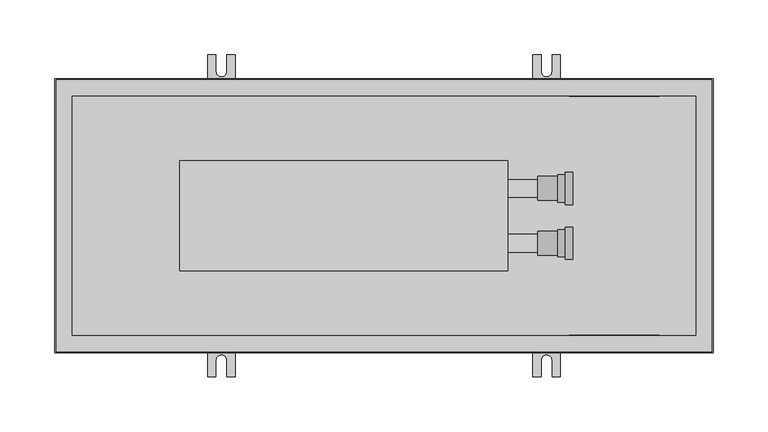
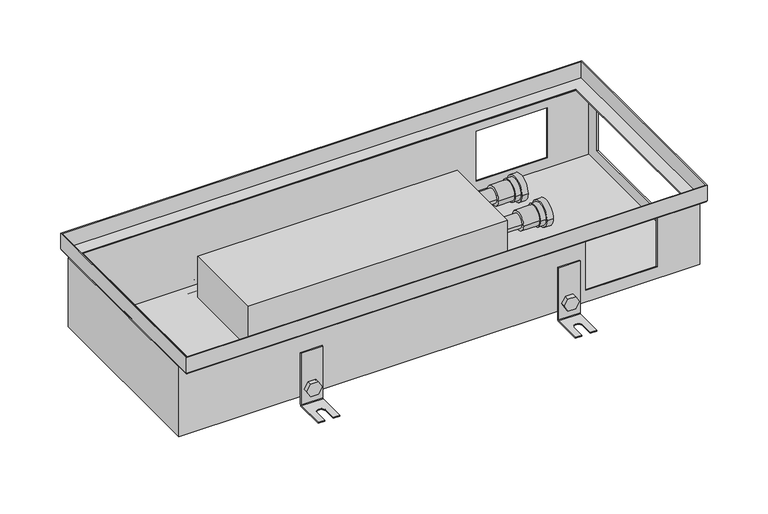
"""IFC4 building model written with IfcOpenShell, lengths in millimetres: proxy geometry, TECHNO_Конвектор встраиваемый_Usual_KVZ-250_85-105-120 : KVZ 250-105."""

from ifc_helpers import new_model, si_unit, point, frame, frame_2d, origin, place, context, project, spatial, polyline, circle_curve, ellipse_curve, trimmed, segment, composite_curve, outline, extrude, faceted_brep, source, transform, mapped, element, save
from ifc_brep_helpers import plane_surface, cylinder_surface, revolved_surface, advanced_brep


def mechanical_equipment_37fe95d5(model_context):
    return source(origin(), model_context, "Body", "SolidModel", [
        extrude(outline(composite_curve([segment(trimmed(circle_curve(frame_2d((-95.5, 448.2)), 7.5), [point((-95.5, 440.7))], [point((-95.5, 455.7))], False, "CARTESIAN"), True, "CONTINUOUS"), segment(trimmed(circle_curve(frame_2d((-95.5, 448.2)), 7.5), [point((-95.5, 455.7))], [point((-95.5, 440.7))], False, "CARTESIAN"), True, "CONTINUOUS")], self_intersect=False)), frame((0.0, 110.2, 0.0), z_axis=(0.0, 1.0, 0.0), x_axis=(0.0, 0.0, 1.0)), (0.0, 0.0, 1.0), 1.5),
        extrude(outline(polyline([(-95.5, 439.539746), (-103.0, 443.869873), (-103.0, 452.530127), (-95.5, 456.860254), (-88.0, 452.530127), (-88.0, 443.869873), (-95.5, 439.539746)])), frame((0.0, 112.9, 0.0), z_axis=(0.0, 1.0, 0.0), x_axis=(0.0, 0.0, 1.0)), (0.0, 0.0, 1.0), 5.1),
        advanced_brep(
        [(460.7, 112.9, -50.5), (460.7, 111.7, -50.5), (460.7, 111.7, -113.5), (460.7, 113.7, -115.5), (460.7, 146.7, -115.5), (460.7, 146.7, -114.3), (460.7, 113.7, -114.3), (460.7, 112.9, -113.5), (435.7, 112.9, -50.5), (435.7, 112.9, -113.5), (435.7, 113.7, -114.3), (435.7, 146.7, -114.3), (435.7, 146.7, -115.5), (435.7, 113.7, -115.5), (435.7, 111.7, -113.5), (435.7, 111.7, -50.5), (453.2, 146.7, -114.3), (453.2, 131.7, -114.3), (443.2, 131.7, -114.3), (443.2, 146.7, -114.3), (443.2, 146.7, -115.5), (453.2, 146.7, -115.5), (443.2, 131.7, -115.5), (453.2, 131.7, -115.5)],
        [
            (0, 1),
            (1, 2),
            (2, 3, circle_curve(frame((460.7, 113.7, -113.5), z_axis=(1.0, 0.0, 0.0), x_axis=(0.0, 1.0, 0.0)), 2.0)),
            (3, 4),
            (4, 5),
            (5, 6),
            (6, 7, circle_curve(frame((460.7, 113.7, -113.5), z_axis=(-1.0, 0.0, 0.0), x_axis=(0.0, 1.0, 0.0)), 0.8)),
            (7, 0),
            (8, 9),
            (9, 10, circle_curve(frame((435.7, 113.7, -113.5), z_axis=(1.0, 0.0, 0.0), x_axis=(0.0, 1.0, 0.0)), 0.8)),
            (10, 11),
            (11, 12),
            (12, 13),
            (13, 14, circle_curve(frame((435.7, 113.7, -113.5), z_axis=(-1.0, 0.0, 0.0), x_axis=(0.0, 1.0, 0.0)), 2.0)),
            (14, 15),
            (15, 8),
            (7, 9),
            (8, 0),
            (6, 10),
            (5, 16),
            (16, 17),
            (17, 18, circle_curve(frame((448.2, 131.7, -114.3), z_axis=(0.0, 0.0, -1.0), x_axis=(1.0, 0.0, 0.0)), 5.0)),
            (18, 19),
            (19, 11),
            (19, 20),
            (20, 12),
            (4, 21),
            (21, 16),
            (3, 13),
            (20, 22),
            (22, 23, circle_curve(frame((448.2, 131.7, -115.5), z_axis=(0.0, 0.0, 1.0), x_axis=(1.0, 0.0, 0.0)), 5.0)),
            (23, 21),
            (2, 14),
            (1, 15),
            (18, 22),
            (23, 17),
        ],
        [
            plane_surface(frame((460.7, 112.9, -50.5), z_axis=(1.0, 0.0, 0.0), x_axis=(0.0, 0.0, -1.0))),
            plane_surface(frame((435.7, 112.9, -50.5), z_axis=(-1.0, 0.0, 0.0), x_axis=(0.0, 0.0, 1.0))),
            plane_surface(frame((460.7, 112.9, -50.5), z_axis=(0.0, 1.0, 0.0), x_axis=(-1.0, 0.0, 0.0))),
            revolved_surface(polyline([(435.7, 114.5, -113.5), (460.7, 114.5, -113.5)]), (435.7, 113.7, -113.5), (-1.0, 0.0, 0.0)),
            plane_surface(frame((460.7, 113.7, -114.3), z_axis=(0.0, 0.0, 1.0), x_axis=(-1.0, 0.0, 0.0))),
            plane_surface(frame((460.7, 146.7, -114.3), z_axis=(0.0, 1.0, 0.0), x_axis=(-1.0, 0.0, 0.0))),
            plane_surface(frame((460.7, 146.7, -115.5), z_axis=(0.0, 0.0, -1.0), x_axis=(-1.0, 0.0, 0.0))),
            cylinder_surface(frame((435.7, 113.7, -113.5), z_axis=(1.0, 0.0, 0.0), x_axis=(0.0, 1.0, 0.0)), 2.0),
            plane_surface(frame((460.7, 111.7, -113.5), z_axis=(0.0, -1.0, 0.0), x_axis=(-1.0, 0.0, 0.0))),
            plane_surface(frame((460.7, 111.7, -50.5), z_axis=(0.0, 0.0, 1.0), x_axis=(-1.0, 0.0, 0.0))),
            plane_surface(frame((443.2, 131.7, -114.3), z_axis=(1.0, 0.0, 0.0), x_axis=(0.0, 0.0, -1.0))),
            plane_surface(frame((453.2, 146.7, -114.3), z_axis=(-1.0, 0.0, 0.0), x_axis=(0.0, 0.0, -1.0))),
            revolved_surface(polyline([(453.2, 131.7, -114.3), (453.2, 131.7, -115.5)]), (448.2, 131.7, -115.5), (0.0, 0.0, 1.0)),
        ],
        [
            (0, [[1, 2, 3, 4, 5, 6, 7, 8]]),
            (1, [[9, 10, 11, 12, 13, 14, 15, 16]]),
            (2, [[17, -9, 18, -8]]),
            (3, [[19, -10, -17, -7]]),
            (4, [[20, 21, 22, 23, 24, -11, -19, -6]]),
            (5, [[-24, 25, 26, -12]]),
            (5, [[27, 28, -20, -5]]),
            (6, [[29, -13, -26, 30, 31, 32, -27, -4]]),
            (7, [[33, -14, -29, -3]]),
            (8, [[34, -15, -33, -2]]),
            (9, [[-18, -16, -34, -1]]),
            (10, [[-30, -25, -23, 35]]),
            (11, [[-21, -28, -32, 36]]),
            (12, [[-22, -36, -31, -35]]),
        ],
    ),
        extrude(outline(composite_curve([segment(trimmed(circle_curve(frame_2d((-95.5, 448.2)), 7.5), [point((-95.5, 440.7))], [point((-95.5, 455.7))], False, "CARTESIAN"), True, "CONTINUOUS"), segment(trimmed(circle_curve(frame_2d((-95.5, 448.2)), 7.5), [point((-95.5, 455.7))], [point((-95.5, 440.7))], False, "CARTESIAN"), True, "CONTINUOUS")], self_intersect=False)), frame((0.0, -111.7, 0.0), z_axis=(0.0, 1.0, 0.0), x_axis=(0.0, 0.0, 1.0)), (0.0, 0.0, 1.0), 1.5),
        extrude(outline(polyline([(-95.5, 439.539746), (-103.0, 443.869873), (-103.0, 452.530127), (-95.5, 456.860254), (-88.0, 452.530127), (-88.0, 443.869873), (-95.5, 439.539746)])), frame((0.0, -118.0, 0.0), z_axis=(0.0, 1.0, 0.0), x_axis=(0.0, 0.0, 1.0)), (0.0, 0.0, 1.0), 5.1),
        advanced_brep(
        [(460.7, -112.9, -50.5), (460.7, -112.9, -113.5), (460.7, -113.7, -114.3), (460.7, -146.7, -114.3), (460.7, -146.7, -115.5), (460.7, -113.7, -115.5), (460.7, -111.7, -113.5), (460.7, -111.7, -50.5), (435.7, -112.9, -50.5), (435.7, -111.7, -50.5), (435.7, -111.7, -113.5), (435.7, -113.7, -115.5), (435.7, -146.7, -115.5), (435.7, -146.7, -114.3), (435.7, -113.7, -114.3), (435.7, -112.9, -113.5), (443.2, -146.7, -114.3), (443.2, -131.7, -114.3), (453.2, -131.7, -114.3), (453.2, -146.7, -114.3), (453.2, -146.7, -115.5), (443.2, -146.7, -115.5), (453.2, -131.7, -115.5), (443.2, -131.7, -115.5)],
        [
            (0, 1),
            (1, 2, circle_curve(frame((460.7, -113.7, -113.5), z_axis=(-1.0, 0.0, 0.0), x_axis=(0.0, -1.0, 0.0)), 0.8)),
            (2, 3),
            (3, 4),
            (4, 5),
            (5, 6, circle_curve(frame((460.7, -113.7, -113.5), z_axis=(1.0, 0.0, 0.0), x_axis=(0.0, -1.0, 0.0)), 2.0)),
            (6, 7),
            (7, 0),
            (8, 9),
            (9, 10),
            (10, 11, circle_curve(frame((435.7, -113.7, -113.5), z_axis=(-1.0, 0.0, 0.0), x_axis=(0.0, -1.0, 0.0)), 2.0)),
            (11, 12),
            (12, 13),
            (13, 14),
            (14, 15, circle_curve(frame((435.7, -113.7, -113.5), z_axis=(1.0, 0.0, 0.0), x_axis=(0.0, -1.0, 0.0)), 0.8)),
            (15, 8),
            (0, 8),
            (15, 1),
            (14, 2),
            (13, 16),
            (16, 17),
            (17, 18, circle_curve(frame((448.2, -131.7, -114.3), z_axis=(0.0, 0.0, -1.0), x_axis=(1.0, 0.0, 0.0)), 5.0)),
            (18, 19),
            (19, 3),
            (19, 20),
            (20, 4),
            (12, 21),
            (21, 16),
            (20, 22),
            (22, 23, circle_curve(frame((448.2, -131.7, -115.5), z_axis=(0.0, 0.0, 1.0), x_axis=(1.0, 0.0, 0.0)), 5.0)),
            (23, 21),
            (11, 5),
            (10, 6),
            (9, 7),
            (23, 17),
            (18, 22),
        ],
        [
            plane_surface(frame((460.7, -112.9, -50.5), z_axis=(1.0, 0.0, 0.0), x_axis=(0.0, 0.0, -1.0))),
            plane_surface(frame((435.7, -112.9, -50.5), z_axis=(-1.0, 0.0, 0.0), x_axis=(0.0, 0.0, 1.0))),
            plane_surface(frame((460.7, -112.9, -50.5), z_axis=(0.0, -1.0, 0.0), x_axis=(-1.0, 0.0, 0.0))),
            revolved_surface(polyline([(435.7, -114.5, -113.5), (460.7, -114.5, -113.5)]), (435.7, -113.7, -113.5), (-1.0, 0.0, 0.0)),
            plane_surface(frame((460.7, -113.7, -114.3), z_axis=(0.0, 0.0, 1.0), x_axis=(-1.0, 0.0, 0.0))),
            plane_surface(frame((460.7, -146.7, -114.3), z_axis=(0.0, -1.0, 0.0), x_axis=(-1.0, 0.0, 0.0))),
            plane_surface(frame((460.7, -146.7, -115.5), z_axis=(0.0, 0.0, -1.0), x_axis=(-1.0, 0.0, 0.0))),
            cylinder_surface(frame((435.7, -113.7, -113.5), z_axis=(1.0, 0.0, 0.0), x_axis=(0.0, -1.0, 0.0)), 2.0),
            plane_surface(frame((460.7, -111.7, -113.5), z_axis=(0.0, 1.0, 0.0), x_axis=(-1.0, 0.0, 0.0))),
            plane_surface(frame((460.7, -111.7, -50.5), z_axis=(0.0, 0.0, 1.0), x_axis=(-1.0, 0.0, 0.0))),
            plane_surface(frame((443.2, -131.7, -114.3), z_axis=(1.0, 0.0, 0.0), x_axis=(0.0, 0.0, -1.0))),
            plane_surface(frame((453.2, -146.7, -114.3), z_axis=(-1.0, 0.0, 0.0), x_axis=(0.0, 0.0, -1.0))),
            revolved_surface(polyline([(453.2, -131.7, -114.3), (453.2, -131.7, -115.5)]), (448.2, -131.7, -115.5), (0.0, 0.0, 1.0)),
        ],
        [
            (0, [[1, 2, 3, 4, 5, 6, 7, 8]]),
            (1, [[9, 10, 11, 12, 13, 14, 15, 16]]),
            (2, [[-1, 17, -16, 18]]),
            (3, [[-2, -18, -15, 19]]),
            (4, [[-3, -19, -14, 20, 21, 22, 23, 24]]),
            (5, [[-4, -24, 25, 26]]),
            (5, [[-13, 27, 28, -20]]),
            (6, [[-5, -26, 29, 30, 31, -27, -12, 32]]),
            (7, [[-6, -32, -11, 33]]),
            (8, [[-7, -33, -10, 34]]),
            (9, [[-8, -34, -9, -17]]),
            (10, [[35, -21, -28, -31]]),
            (11, [[36, -29, -25, -23]]),
            (12, [[-35, -30, -36, -22]]),
        ],
    ),
        extrude(outline(composite_curve([segment(trimmed(circle_curve(frame_2d((-95.5, 151.8)), 7.5), [point((-95.5, 144.3))], [point((-95.5, 159.3))], False, "CARTESIAN"), True, "CONTINUOUS"), segment(trimmed(circle_curve(frame_2d((-95.5, 151.8)), 7.5), [point((-95.5, 159.3))], [point((-95.5, 144.3))], False, "CARTESIAN"), True, "CONTINUOUS")], self_intersect=False)), frame((0.0, 110.2, 0.0), z_axis=(0.0, 1.0, 0.0), x_axis=(0.0, 0.0, 1.0)), (0.0, 0.0, 1.0), 1.5),
        extrude(outline(polyline([(-95.5, 143.139746), (-103.0, 147.469873), (-103.0, 156.130127), (-95.5, 160.460254), (-88.0, 156.130127), (-88.0, 147.469873), (-95.5, 143.139746)])), frame((0.0, 112.9, 0.0), z_axis=(0.0, 1.0, 0.0), x_axis=(0.0, 0.0, 1.0)), (0.0, 0.0, 1.0), 5.1),
        advanced_brep(
        [(164.3, 112.9, -50.5), (164.3, 111.7, -50.5), (164.3, 111.7, -113.5), (164.3, 113.7, -115.5), (164.3, 146.7, -115.5), (164.3, 146.7, -114.3), (164.3, 113.7, -114.3), (164.3, 112.9, -113.5), (139.3, 112.9, -50.5), (139.3, 112.9, -113.5), (139.3, 113.7, -114.3), (139.3, 146.7, -114.3), (139.3, 146.7, -115.5), (139.3, 113.7, -115.5), (139.3, 111.7, -113.5), (139.3, 111.7, -50.5), (156.8, 146.7, -114.3), (156.8, 131.7, -114.3), (146.8, 131.7, -114.3), (146.8, 146.7, -114.3), (146.8, 146.7, -115.5), (156.8, 146.7, -115.5), (146.8, 131.7, -115.5), (156.8, 131.7, -115.5)],
        [
            (0, 1),
            (1, 2),
            (2, 3, circle_curve(frame((164.3, 113.7, -113.5), z_axis=(1.0, 0.0, 0.0), x_axis=(0.0, 1.0, 0.0)), 2.0)),
            (3, 4),
            (4, 5),
            (5, 6),
            (6, 7, circle_curve(frame((164.3, 113.7, -113.5), z_axis=(-1.0, 0.0, 0.0), x_axis=(0.0, 1.0, 0.0)), 0.8)),
            (7, 0),
            (8, 9),
            (9, 10, circle_curve(frame((139.3, 113.7, -113.5), z_axis=(1.0, 0.0, 0.0), x_axis=(0.0, 1.0, 0.0)), 0.8)),
            (10, 11),
            (11, 12),
            (12, 13),
            (13, 14, circle_curve(frame((139.3, 113.7, -113.5), z_axis=(-1.0, 0.0, 0.0), x_axis=(0.0, 1.0, 0.0)), 2.0)),
            (14, 15),
            (15, 8),
            (7, 9),
            (8, 0),
            (6, 10),
            (5, 16),
            (16, 17),
            (17, 18, circle_curve(frame((151.8, 131.7, -114.3), z_axis=(0.0, 0.0, -1.0), x_axis=(1.0, 0.0, 0.0)), 5.0)),
            (18, 19),
            (19, 11),
            (19, 20),
            (20, 12),
            (4, 21),
            (21, 16),
            (3, 13),
            (20, 22),
            (22, 23, circle_curve(frame((151.8, 131.7, -115.5), z_axis=(0.0, 0.0, 1.0), x_axis=(1.0, 0.0, 0.0)), 5.0)),
            (23, 21),
            (2, 14),
            (1, 15),
            (18, 22),
            (23, 17),
        ],
        [
            plane_surface(frame((164.3, 112.9, -50.5), z_axis=(1.0, 0.0, 0.0), x_axis=(0.0, 0.0, -1.0))),
            plane_surface(frame((139.3, 112.9, -50.5), z_axis=(-1.0, 0.0, 0.0), x_axis=(0.0, 0.0, 1.0))),
            plane_surface(frame((164.3, 112.9, -50.5), z_axis=(0.0, 1.0, 0.0), x_axis=(-1.0, 0.0, 0.0))),
            revolved_surface(polyline([(139.3, 114.5, -113.5), (164.3, 114.5, -113.5)]), (139.3, 113.7, -113.5), (-1.0, 0.0, 0.0)),
            plane_surface(frame((164.3, 113.7, -114.3), z_axis=(0.0, 0.0, 1.0), x_axis=(-1.0, 0.0, 0.0))),
            plane_surface(frame((164.3, 146.7, -114.3), z_axis=(0.0, 1.0, 0.0), x_axis=(-1.0, 0.0, 0.0))),
            plane_surface(frame((164.3, 146.7, -115.5), z_axis=(0.0, 0.0, -1.0), x_axis=(-1.0, 0.0, 0.0))),
            cylinder_surface(frame((139.3, 113.7, -113.5), z_axis=(1.0, 0.0, 0.0), x_axis=(0.0, 1.0, 0.0)), 2.0),
            plane_surface(frame((164.3, 111.7, -113.5), z_axis=(0.0, -1.0, 0.0), x_axis=(-1.0, 0.0, 0.0))),
            plane_surface(frame((164.3, 111.7, -50.5), z_axis=(0.0, 0.0, 1.0), x_axis=(-1.0, 0.0, 0.0))),
            plane_surface(frame((146.8, 131.7, -114.3), z_axis=(1.0, 0.0, 0.0), x_axis=(0.0, 0.0, -1.0))),
            plane_surface(frame((156.8, 146.7, -114.3), z_axis=(-1.0, 0.0, 0.0), x_axis=(0.0, 0.0, -1.0))),
            revolved_surface(polyline([(156.8, 131.7, -114.3), (156.8, 131.7, -115.5)]), (151.8, 131.7, -115.5), (0.0, 0.0, 1.0)),
        ],
        [
            (0, [[1, 2, 3, 4, 5, 6, 7, 8]]),
            (1, [[9, 10, 11, 12, 13, 14, 15, 16]]),
            (2, [[17, -9, 18, -8]]),
            (3, [[19, -10, -17, -7]]),
            (4, [[20, 21, 22, 23, 24, -11, -19, -6]]),
            (5, [[-24, 25, 26, -12]]),
            (5, [[27, 28, -20, -5]]),
            (6, [[29, -13, -26, 30, 31, 32, -27, -4]]),
            (7, [[33, -14, -29, -3]]),
            (8, [[34, -15, -33, -2]]),
            (9, [[-18, -16, -34, -1]]),
            (10, [[-30, -25, -23, 35]]),
            (11, [[-21, -28, -32, 36]]),
            (12, [[-22, -36, -31, -35]]),
        ],
    ),
        extrude(outline(composite_curve([segment(trimmed(circle_curve(frame_2d((-95.5, 151.8)), 7.5), [point((-95.5, 144.3))], [point((-95.5, 159.3))], False, "CARTESIAN"), True, "CONTINUOUS"), segment(trimmed(circle_curve(frame_2d((-95.5, 151.8)), 7.5), [point((-95.5, 159.3))], [point((-95.5, 144.3))], False, "CARTESIAN"), True, "CONTINUOUS")], self_intersect=False)), frame((0.0, -111.7, 0.0), z_axis=(0.0, 1.0, 0.0), x_axis=(0.0, 0.0, 1.0)), (0.0, 0.0, 1.0), 1.5),
        extrude(outline(polyline([(-95.5, 143.139746), (-103.0, 147.469873), (-103.0, 156.130127), (-95.5, 160.460254), (-88.0, 156.130127), (-88.0, 147.469873), (-95.5, 143.139746)])), frame((0.0, -118.0, 0.0), z_axis=(0.0, 1.0, 0.0), x_axis=(0.0, 0.0, 1.0)), (0.0, 0.0, 1.0), 5.1),
        advanced_brep(
        [(164.3, -112.9, -50.5), (164.3, -112.9, -113.5), (164.3, -113.7, -114.3), (164.3, -146.7, -114.3), (164.3, -146.7, -115.5), (164.3, -113.7, -115.5), (164.3, -111.7, -113.5), (164.3, -111.7, -50.5), (139.3, -112.9, -50.5), (139.3, -111.7, -50.5), (139.3, -111.7, -113.5), (139.3, -113.7, -115.5), (139.3, -146.7, -115.5), (139.3, -146.7, -114.3), (139.3, -113.7, -114.3), (139.3, -112.9, -113.5), (146.8, -146.7, -114.3), (146.8, -131.7, -114.3), (156.8, -131.7, -114.3), (156.8, -146.7, -114.3), (156.8, -146.7, -115.5), (146.8, -146.7, -115.5), (156.8, -131.7, -115.5), (146.8, -131.7, -115.5)],
        [
            (0, 1),
            (1, 2, circle_curve(frame((164.3, -113.7, -113.5), z_axis=(-1.0, 0.0, 0.0), x_axis=(0.0, -1.0, 0.0)), 0.8)),
            (2, 3),
            (3, 4),
            (4, 5),
            (5, 6, circle_curve(frame((164.3, -113.7, -113.5), z_axis=(1.0, 0.0, 0.0), x_axis=(0.0, -1.0, 0.0)), 2.0)),
            (6, 7),
            (7, 0),
            (8, 9),
            (9, 10),
            (10, 11, circle_curve(frame((139.3, -113.7, -113.5), z_axis=(-1.0, 0.0, 0.0), x_axis=(0.0, -1.0, 0.0)), 2.0)),
            (11, 12),
            (12, 13),
            (13, 14),
            (14, 15, circle_curve(frame((139.3, -113.7, -113.5), z_axis=(1.0, 0.0, 0.0), x_axis=(0.0, -1.0, 0.0)), 0.8)),
            (15, 8),
            (0, 8),
            (15, 1),
            (14, 2),
            (13, 16),
            (16, 17),
            (17, 18, circle_curve(frame((151.8, -131.7, -114.3), z_axis=(0.0, 0.0, -1.0), x_axis=(1.0, 0.0, 0.0)), 5.0)),
            (18, 19),
            (19, 3),
            (19, 20),
            (20, 4),
            (12, 21),
            (21, 16),
            (20, 22),
            (22, 23, circle_curve(frame((151.8, -131.7, -115.5), z_axis=(0.0, 0.0, 1.0), x_axis=(1.0, 0.0, 0.0)), 5.0)),
            (23, 21),
            (11, 5),
            (10, 6),
            (9, 7),
            (23, 17),
            (18, 22),
        ],
        [
            plane_surface(frame((164.3, -112.9, -50.5), z_axis=(1.0, 0.0, 0.0), x_axis=(0.0, 0.0, -1.0))),
            plane_surface(frame((139.3, -112.9, -50.5), z_axis=(-1.0, 0.0, 0.0), x_axis=(0.0, 0.0, 1.0))),
            plane_surface(frame((164.3, -112.9, -50.5), z_axis=(0.0, -1.0, 0.0), x_axis=(-1.0, 0.0, 0.0))),
            revolved_surface(polyline([(139.3, -114.5, -113.5), (164.3, -114.5, -113.5)]), (139.3, -113.7, -113.5), (-1.0, 0.0, 0.0)),
            plane_surface(frame((164.3, -113.7, -114.3), z_axis=(0.0, 0.0, 1.0), x_axis=(-1.0, 0.0, 0.0))),
            plane_surface(frame((164.3, -146.7, -114.3), z_axis=(0.0, -1.0, 0.0), x_axis=(-1.0, 0.0, 0.0))),
            plane_surface(frame((164.3, -146.7, -115.5), z_axis=(0.0, 0.0, -1.0), x_axis=(-1.0, 0.0, 0.0))),
            cylinder_surface(frame((139.3, -113.7, -113.5), z_axis=(1.0, 0.0, 0.0), x_axis=(0.0, -1.0, 0.0)), 2.0),
            plane_surface(frame((164.3, -111.7, -113.5), z_axis=(0.0, 1.0, 0.0), x_axis=(-1.0, 0.0, 0.0))),
            plane_surface(frame((164.3, -111.7, -50.5), z_axis=(0.0, 0.0, 1.0), x_axis=(-1.0, 0.0, 0.0))),
            plane_surface(frame((146.8, -131.7, -114.3), z_axis=(1.0, 0.0, 0.0), x_axis=(0.0, 0.0, -1.0))),
            plane_surface(frame((156.8, -146.7, -114.3), z_axis=(-1.0, 0.0, 0.0), x_axis=(0.0, 0.0, -1.0))),
            revolved_surface(polyline([(156.8, -131.7, -114.3), (156.8, -131.7, -115.5)]), (151.8, -131.7, -115.5), (0.0, 0.0, 1.0)),
        ],
        [
            (0, [[1, 2, 3, 4, 5, 6, 7, 8]]),
            (1, [[9, 10, 11, 12, 13, 14, 15, 16]]),
            (2, [[-1, 17, -16, 18]]),
            (3, [[-2, -18, -15, 19]]),
            (4, [[-3, -19, -14, 20, 21, 22, 23, 24]]),
            (5, [[-4, -24, 25, 26]]),
            (5, [[-13, 27, 28, -20]]),
            (6, [[-5, -26, 29, 30, 31, -27, -12, 32]]),
            (7, [[-6, -32, -11, 33]]),
            (8, [[-7, -33, -10, 34]]),
            (9, [[-8, -34, -9, -17]]),
            (10, [[35, -21, -28, -31]]),
            (11, [[36, -29, -25, -23]]),
            (12, [[-35, -30, -36, -22]]),
        ],
    ),
        extrude(outline(polyline([(413.0, 50.0), (413.0, -50.0), (114.0, -50.0), (114.0, 50.0), (413.0, 50.0)])), frame((0.0, 0.0, -72.5), z_axis=(0.0, 0.0, 1.0), x_axis=(1.0, 0.0, 0.0)), (0.0, 0.0, 1.0), 50.0),
        advanced_brep(
        [(440.0, 25.0, -47.5), (440.0, 36.0, -47.5), (440.0, 14.0, -47.5), (458.5, 36.0, -47.5), (458.5, 14.0, -47.5), (458.5, 37.5, -47.5), (458.5, 12.5, -47.5), (465.0, 37.5, -47.5), (465.0, 12.5, -47.5), (465.0, 39.7, -47.5), (465.0, 10.3, -47.5), (472.0, 39.7, -47.5), (472.0, 10.3, -47.5), (472.0, 25.0, -47.5)],
        [
            (0, 1),
            (1, 2, circle_curve(frame((440.0, 25.0, -47.5), z_axis=(-1.0, 0.0, 0.0), x_axis=(0.0, 1.0, 0.0)), 11.0)),
            (2, 0),
            (2, 1, circle_curve(frame((440.0, 25.0, -47.5), z_axis=(-1.0, 0.0, 0.0), x_axis=(0.0, 1.0, 0.0)), 11.0)),
            (1, 3),
            (3, 4, circle_curve(frame((458.5, 25.0, -47.5), z_axis=(-1.0, 0.0, 0.0), x_axis=(0.0, 1.0, 0.0)), 11.0)),
            (4, 2),
            (4, 3, circle_curve(frame((458.5, 25.0, -47.5), z_axis=(-1.0, 0.0, 0.0), x_axis=(0.0, 1.0, 0.0)), 11.0)),
            (3, 5),
            (5, 6, circle_curve(frame((458.5, 25.0, -47.5), z_axis=(-1.0, 0.0, 0.0), x_axis=(0.0, 1.0, 0.0)), 12.5)),
            (6, 4),
            (6, 5, circle_curve(frame((458.5, 25.0, -47.5), z_axis=(-1.0, 0.0, 0.0), x_axis=(0.0, 1.0, 0.0)), 12.5)),
            (5, 7),
            (7, 8, circle_curve(frame((465.0, 25.0, -47.5), z_axis=(-1.0, 0.0, 0.0), x_axis=(0.0, 1.0, 0.0)), 12.5)),
            (8, 6),
            (8, 7, circle_curve(frame((465.0, 25.0, -47.5), z_axis=(-1.0, 0.0, 0.0), x_axis=(0.0, 1.0, 0.0)), 12.5)),
            (7, 9),
            (9, 10, circle_curve(frame((465.0, 25.0, -47.5), z_axis=(-1.0, 0.0, 0.0), x_axis=(0.0, 1.0, 0.0)), 14.7)),
            (10, 8),
            (10, 9, circle_curve(frame((465.0, 25.0, -47.5), z_axis=(-1.0, 0.0, 0.0), x_axis=(0.0, 1.0, 0.0)), 14.7)),
            (9, 11),
            (11, 12, circle_curve(frame((472.0, 25.0, -47.5), z_axis=(-1.0, 0.0, 0.0), x_axis=(0.0, 1.0, 0.0)), 14.7)),
            (12, 10),
            (12, 11, circle_curve(frame((472.0, 25.0, -47.5), z_axis=(-1.0, 0.0, 0.0), x_axis=(0.0, 1.0, 0.0)), 14.7)),
            (11, 13),
            (13, 12),
        ],
        [
            plane_surface(frame((440.0, 25.0, -47.5), z_axis=(-1.0, 0.0, 0.0), x_axis=(0.0, 1.0, 0.0))),
            cylinder_surface(frame((472.0, 25.0, -47.5), z_axis=(-1.0, 0.0, 0.0), x_axis=(0.0, 1.0, 0.0)), 11.0),
            plane_surface(frame((458.5, 25.0, -47.5), z_axis=(-1.0, 0.0, 0.0), x_axis=(0.0, 1.0, 0.0))),
            cylinder_surface(frame((472.0, 25.0, -47.5), z_axis=(-1.0, 0.0, 0.0), x_axis=(0.0, 1.0, 0.0)), 12.5),
            plane_surface(frame((465.0, 25.0, -47.5), z_axis=(-1.0, 0.0, 0.0), x_axis=(0.0, 1.0, 0.0))),
            cylinder_surface(frame((472.0, 25.0, -47.5), z_axis=(-1.0, 0.0, 0.0), x_axis=(0.0, 1.0, 0.0)), 14.7),
            plane_surface(frame((472.0, 25.0, -47.5), z_axis=(1.0, 0.0, 0.0), x_axis=(0.0, 1.0, 0.0))),
        ],
        [
            (0, [[1, 2, 3]]),
            (0, [[-3, 4, -1]]),
            (1, [[-2, 5, 6, 7]]),
            (1, [[-4, -7, 8, -5]]),
            (2, [[-6, 9, 10, 11]]),
            (2, [[-8, -11, 12, -9]]),
            (3, [[-10, 13, 14, 15]]),
            (3, [[-12, -15, 16, -13]]),
            (4, [[-14, 17, 18, 19]]),
            (4, [[-16, -19, 20, -17]]),
            (5, [[-18, 21, 22, 23]]),
            (5, [[-20, -23, 24, -21]]),
            (6, [[-22, 25, 26]]),
            (6, [[-24, -26, -25]]),
        ],
    ),
        advanced_brep(
        [(440.0, -25.0, -47.5), (440.0, -14.0, -47.5), (440.0, -36.0, -47.5), (458.5, -14.0, -47.5), (458.5, -36.0, -47.5), (458.5, -12.5, -47.5), (458.5, -37.5, -47.5), (465.0, -12.5, -47.5), (465.0, -37.5, -47.5), (465.0, -10.3, -47.5), (465.0, -39.7, -47.5), (472.0, -10.3, -47.5), (472.0, -39.7, -47.5), (472.0, -25.0, -47.5)],
        [
            (0, 1),
            (1, 2, circle_curve(frame((440.0, -25.0, -47.5), z_axis=(-1.0, 0.0, 0.0), x_axis=(0.0, 1.0, 0.0)), 11.0)),
            (2, 0),
            (2, 1, circle_curve(frame((440.0, -25.0, -47.5), z_axis=(-1.0, 0.0, 0.0), x_axis=(0.0, 1.0, 0.0)), 11.0)),
            (1, 3),
            (3, 4, circle_curve(frame((458.5, -25.0, -47.5), z_axis=(-1.0, 0.0, 0.0), x_axis=(0.0, 1.0, 0.0)), 11.0)),
            (4, 2),
            (4, 3, circle_curve(frame((458.5, -25.0, -47.5), z_axis=(-1.0, 0.0, 0.0), x_axis=(0.0, 1.0, 0.0)), 11.0)),
            (3, 5),
            (5, 6, circle_curve(frame((458.5, -25.0, -47.5), z_axis=(-1.0, 0.0, 0.0), x_axis=(0.0, 1.0, 0.0)), 12.5)),
            (6, 4),
            (6, 5, circle_curve(frame((458.5, -25.0, -47.5), z_axis=(-1.0, 0.0, 0.0), x_axis=(0.0, 1.0, 0.0)), 12.5)),
            (5, 7),
            (7, 8, circle_curve(frame((465.0, -25.0, -47.5), z_axis=(-1.0, 0.0, 0.0), x_axis=(0.0, 1.0, 0.0)), 12.5)),
            (8, 6),
            (8, 7, circle_curve(frame((465.0, -25.0, -47.5), z_axis=(-1.0, 0.0, 0.0), x_axis=(0.0, 1.0, 0.0)), 12.5)),
            (7, 9),
            (9, 10, circle_curve(frame((465.0, -25.0, -47.5), z_axis=(-1.0, 0.0, 0.0), x_axis=(0.0, 1.0, 0.0)), 14.7)),
            (10, 8),
            (10, 9, circle_curve(frame((465.0, -25.0, -47.5), z_axis=(-1.0, 0.0, 0.0), x_axis=(0.0, 1.0, 0.0)), 14.7)),
            (9, 11),
            (11, 12, circle_curve(frame((472.0, -25.0, -47.5), z_axis=(-1.0, 0.0, 0.0), x_axis=(0.0, 1.0, 0.0)), 14.7)),
            (12, 10),
            (12, 11, circle_curve(frame((472.0, -25.0, -47.5), z_axis=(-1.0, 0.0, 0.0), x_axis=(0.0, 1.0, 0.0)), 14.7)),
            (11, 13),
            (13, 12),
        ],
        [
            plane_surface(frame((440.0, -25.0, -47.5), z_axis=(-1.0, 0.0, 0.0), x_axis=(0.0, 1.0, 0.0))),
            cylinder_surface(frame((472.0, -25.0, -47.5), z_axis=(-1.0, 0.0, 0.0), x_axis=(0.0, 1.0, 0.0)), 11.0),
            plane_surface(frame((458.5, -25.0, -47.5), z_axis=(-1.0, 0.0, 0.0), x_axis=(0.0, 1.0, 0.0))),
            cylinder_surface(frame((472.0, -25.0, -47.5), z_axis=(-1.0, 0.0, 0.0), x_axis=(0.0, 1.0, 0.0)), 12.5),
            plane_surface(frame((465.0, -25.0, -47.5), z_axis=(-1.0, 0.0, 0.0), x_axis=(0.0, 1.0, 0.0))),
            cylinder_surface(frame((472.0, -25.0, -47.5), z_axis=(-1.0, 0.0, 0.0), x_axis=(0.0, 1.0, 0.0)), 14.7),
            plane_surface(frame((472.0, -25.0, -47.5), z_axis=(1.0, 0.0, 0.0), x_axis=(0.0, 1.0, 0.0))),
        ],
        [
            (0, [[1, 2, 3]]),
            (0, [[-3, 4, -1]]),
            (1, [[-2, 5, 6, 7]]),
            (1, [[-4, -7, 8, -5]]),
            (2, [[-6, 9, 10, 11]]),
            (2, [[-8, -11, 12, -9]]),
            (3, [[-10, 13, 14, 15]]),
            (3, [[-12, -15, 16, -13]]),
            (4, [[-14, 17, 18, 19]]),
            (4, [[-16, -19, 20, -17]]),
            (5, [[-18, 21, 22, 23]]),
            (5, [[-20, -23, 24, -21]]),
            (6, [[-22, 25, 26]]),
            (6, [[-24, -26, -25]]),
        ],
    ),
        extrude(outline(composite_curve([segment(trimmed(circle_curve(frame_2d((25.0, -47.5)), 8.0), [point((17.0, -47.5))], [point((33.0, -47.5))], False, "CARTESIAN"), True, "CONTINUOUS"), segment(trimmed(circle_curve(frame_2d((25.0, -47.5)), 8.0), [point((33.0, -47.5))], [point((17.0, -47.5))], False, "CARTESIAN"), True, "CONTINUOUS")], self_intersect=False)), frame((413.0, 0.0, 0.0), z_axis=(1.0, 0.0, 0.0), x_axis=(0.0, 1.0, 0.0)), (0.0, 0.0, 1.0), 27.0),
        extrude(outline(composite_curve([segment(trimmed(circle_curve(frame_2d((-25.0, -47.5)), 8.0), [point((-33.0, -47.5))], [point((-17.0, -47.5))], False, "CARTESIAN"), True, "CONTINUOUS"), segment(trimmed(circle_curve(frame_2d((-25.0, -47.5)), 8.0), [point((-17.0, -47.5))], [point((-33.0, -47.5))], False, "CARTESIAN"), True, "CONTINUOUS")], self_intersect=False)), frame((413.0, 0.0, 0.0), z_axis=(1.0, 0.0, 0.0), x_axis=(0.0, 1.0, 0.0)), (0.0, 0.0, 1.0), 27.0),
        faceted_brep([(598.8, -109.0, -103.8), (598.8, 109.0, -103.8), (1.2, 109.0, -103.8), (1.2, -109.0, -103.8), (0.0, -110.2, -105.0), (0.0, 110.2, -105.0), (600.0, 110.2, -105.0), (600.0, -110.2, -105.0), (600.0, -110.2, -20.5), (0.0, -110.2, -20.5), (469.0, -110.2, -30.0), (551.0, -110.2, -30.0), (551.0, -110.2, -91.0), (469.0, -110.2, -91.0), (600.0, 110.2, -20.5), (600.0, 92.5, -30.0), (600.0, 92.5, -89.0), (600.0, -92.5, -89.0), (600.0, -92.5, -30.0), (0.0, 110.2, -20.5), (551.0, 110.2, -30.0), (469.0, 110.2, -30.0), (469.0, 110.2, -91.0), (551.0, 110.2, -91.0), (598.8, -109.0, -20.5), (598.8, 109.0, -20.5), (598.8, 92.5, -89.0), (598.8, 92.5, -30.0), (598.8, -92.5, -30.0), (598.8, -92.5, -89.0), (1.2, -109.0, -20.5), (551.0, -109.0, -30.0), (469.0, -109.0, -30.0), (469.0, -109.0, -91.0), (551.0, -109.0, -91.0), (1.2, 109.0, -20.5), (469.0, 109.0, -30.0), (551.0, 109.0, -30.0), (551.0, 109.0, -91.0), (469.0, 109.0, -91.0)], [[[0, 1, 2, 3]], [[4, 5, 6, 7]], [[4, 7, 8, 9], [10, 11, 12, 13]], [[7, 6, 14, 8], [15, 16, 17, 18]], [[6, 5, 19, 14], [20, 21, 22, 23]], [[5, 4, 9, 19]], [[24, 25, 1, 0], [26, 27, 28, 29]], [[30, 24, 0, 3], [31, 32, 33, 34]], [[35, 30, 3, 2]], [[25, 35, 2, 1], [36, 37, 38, 39]], [[8, 14, 19, 9], [25, 24, 30, 35]], [[31, 11, 10, 32]], [[20, 37, 36, 21]], [[32, 10, 13, 33]], [[21, 36, 39, 22]], [[33, 13, 12, 34]], [[22, 39, 38, 23]], [[11, 31, 34, 12]], [[37, 20, 23, 38]], [[15, 27, 26, 16]], [[27, 15, 18, 28]], [[28, 18, 17, 29]], [[16, 26, 29, 17]]]),
        advanced_brep(
        [(584.0, 109.0, -19.3), (584.0, 109.0, -20.5), (584.0, -109.0, -20.5), (584.0, -109.0, -19.3), (598.8, 123.8, 0.0), (598.8, 123.8, -19.3), (598.8, -123.8, -19.3), (598.8, -123.8, 0.0), (600.0, 125.0, -18.5), (600.0, 125.0, 0.0), (600.0, -125.0, 0.0), (600.0, -125.0, -18.5), (16.0, -109.0, -20.5), (16.0, -109.0, -19.3), (1.2, -123.8, -19.3), (1.2, -123.8, 0.0), (0.0, -125.0, 0.0), (0.0, -125.0, -18.5), (16.0, 109.0, -20.5), (16.0, 109.0, -19.3), (1.2, 123.8, -19.3), (1.2, 123.8, 0.0), (0.0, 125.0, 0.0), (0.0, 125.0, -18.5), (598.0, -123.0, -20.5), (2.0, -123.0, -20.5), (2.0, 123.0, -20.5), (598.0, 123.0, -20.5)],
        [
            (0, 1),
            (1, 2),
            (2, 3),
            (3, 0),
            (4, 5),
            (5, 6),
            (6, 7),
            (7, 4),
            (8, 9),
            (9, 10),
            (10, 11),
            (11, 8),
            (2, 12),
            (12, 13),
            (13, 3),
            (6, 14),
            (14, 15),
            (15, 7),
            (10, 16),
            (16, 17),
            (17, 11),
            (12, 18),
            (18, 19),
            (19, 13),
            (14, 20),
            (20, 21),
            (21, 15),
            (16, 22),
            (22, 23),
            (23, 17),
            (24, 25),
            (25, 26),
            (26, 27),
            (27, 24),
            (1, 18),
            (0, 19),
            (5, 20),
            (4, 21),
            (9, 22),
            (8, 23),
            (27, 8, ellipse_curve(frame((598.0, 123.0, -18.5), z_axis=(0.7071067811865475, -0.7071067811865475, 0.0), x_axis=(0.7071067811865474, 0.7071067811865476, 0.0)), 2.8284271, 2.0)),
            (11, 24, ellipse_curve(frame((598.0, -123.0, -18.5), z_axis=(0.7071067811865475, 0.7071067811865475, 0.0), x_axis=(-0.7071067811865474, 0.7071067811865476, 0.0)), 2.8284271, 2.0)),
            (17, 25, ellipse_curve(frame((2.0, -123.0, -18.5), z_axis=(0.7071067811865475, -0.7071067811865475, 0.0), x_axis=(0.7071067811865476, 0.7071067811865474, 0.0)), 2.8284271, 2.0)),
            (23, 26, ellipse_curve(frame((2.0, 123.0, -18.5), z_axis=(-0.7071067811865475, -0.7071067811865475, 0.0), x_axis=(0.7071067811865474, -0.7071067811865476, 0.0)), 2.8284271, 2.0)),
        ],
        [
            plane_surface(frame((584.0, 109.0, -20.5), z_axis=(-1.0, 0.0, 0.0), x_axis=(0.0, -1.0, 0.0))),
            plane_surface(frame((598.8, 123.8, -19.3), z_axis=(-1.0, 0.0, 0.0), x_axis=(0.0, -1.0, 0.0))),
            plane_surface(frame((600.0, 125.0, 0.0), z_axis=(1.0, 0.0, 0.0), x_axis=(0.0, -1.0, 0.0))),
            plane_surface(frame((584.0, -109.0, -20.5), z_axis=(0.0, 1.0, 0.0), x_axis=(-1.0, 0.0, 0.0))),
            plane_surface(frame((598.8, -123.8, -19.3), z_axis=(0.0, 1.0, 0.0), x_axis=(-1.0, 0.0, 0.0))),
            plane_surface(frame((600.0, -125.0, 0.0), z_axis=(0.0, -1.0, 0.0), x_axis=(-1.0, 0.0, 0.0))),
            plane_surface(frame((16.0, -109.0, -20.5), z_axis=(1.0, 0.0, 0.0), x_axis=(0.0, 1.0, 0.0))),
            plane_surface(frame((1.2, -123.8, -19.3), z_axis=(1.0, 0.0, 0.0), x_axis=(0.0, 1.0, 0.0))),
            plane_surface(frame((0.0, -125.0, 0.0), z_axis=(-1.0, 0.0, 0.0), x_axis=(0.0, 1.0, 0.0))),
            plane_surface(frame((2.0, 123.0, -20.5), z_axis=(0.0, 0.0, -1.0), x_axis=(1.0, 0.0, 0.0))),
            plane_surface(frame((16.0, 109.0, -20.5), z_axis=(0.0, -1.0, 0.0), x_axis=(1.0, 0.0, 0.0))),
            plane_surface(frame((16.0, 109.0, -19.3), z_axis=(0.0, 0.0, 1.0), x_axis=(1.0, 0.0, 0.0))),
            plane_surface(frame((1.2, 123.8, -19.3), z_axis=(0.0, -1.0, 0.0), x_axis=(1.0, 0.0, 0.0))),
            plane_surface(frame((1.2, 123.8, 0.0), z_axis=(0.0, 0.0, 1.0), x_axis=(1.0, 0.0, 0.0))),
            plane_surface(frame((0.0, 125.0, 0.0), z_axis=(0.0, 1.0, 0.0), x_axis=(1.0, 0.0, 0.0))),
            cylinder_surface(frame((598.0, 125.0, -18.5), z_axis=(0.0, 1.0, 0.0), x_axis=(1.0, 0.0, 0.0)), 2.0),
            cylinder_surface(frame((600.0, -123.0, -18.5), z_axis=(1.0, 0.0, 0.0), x_axis=(0.0, -1.0, 0.0)), 2.0),
            cylinder_surface(frame((2.0, -125.0, -18.5), z_axis=(0.0, -1.0, 0.0), x_axis=(-1.0, 0.0, 0.0)), 2.0),
            cylinder_surface(frame((0.0, 123.0, -18.5), z_axis=(-1.0, 0.0, 0.0), x_axis=(0.0, 1.0, 0.0)), 2.0),
        ],
        [
            (0, [[1, 2, 3, 4]]),
            (1, [[5, 6, 7, 8]]),
            (2, [[9, 10, 11, 12]]),
            (3, [[-3, 13, 14, 15]]),
            (4, [[-7, 16, 17, 18]]),
            (5, [[-11, 19, 20, 21]]),
            (6, [[-14, 22, 23, 24]]),
            (7, [[-17, 25, 26, 27]]),
            (8, [[-20, 28, 29, 30]]),
            (9, [[31, 32, 33, 34], [35, -22, -13, -2]]),
            (10, [[-23, -35, -1, 36]]),
            (11, [[37, -25, -16, -6], [-15, -24, -36, -4]]),
            (12, [[-26, -37, -5, 38]]),
            (13, [[39, -28, -19, -10], [-18, -27, -38, -8]]),
            (14, [[-29, -39, -9, 40]]),
            (15, [[41, -12, 42, -34]]),
            (16, [[-42, -21, 43, -31]]),
            (17, [[-43, -30, 44, -32]]),
            (18, [[-44, -40, -41, -33]]),
        ],
    ),
    ])


if __name__ == "__main__":
    model = new_model("IFC4")
    model_context = context("Model", 3, world=origin())
    ifc_project = project(units=[si_unit("LENGTHUNIT", "METRE", prefix="MILLI")], contexts=[model_context])
    site = spatial("IfcSite", under=ifc_project)
    building = spatial("IfcBuilding", under=site)
    placement = place(None, origin())
    mechanical_equipment_shape = mechanical_equipment_37fe95d5(model_context)
    element("IfcBuildingElementProxy", 1, Name="TECHNO_Конвектор встраиваемый_Usual_KVZ-250_85-105-120 : KVZ 250-105", ObjectType="TECHNO_Конвектор встраиваемый_Usual_KVZ-250_85-105-120 : KVZ 250-105", at=placement, inside=building, context=model_context, shape_type="MappedRepresentation", body=[
        mapped(mechanical_equipment_shape, transform((0.0, 0.0, 0.0), x_axis=(1.0, 0.0, 0.0), y_axis=(0.0, 1.0, 0.0), z_axis=(0.0, 0.0, 1.0))),
    ])
    save(model, "model.ifc")
